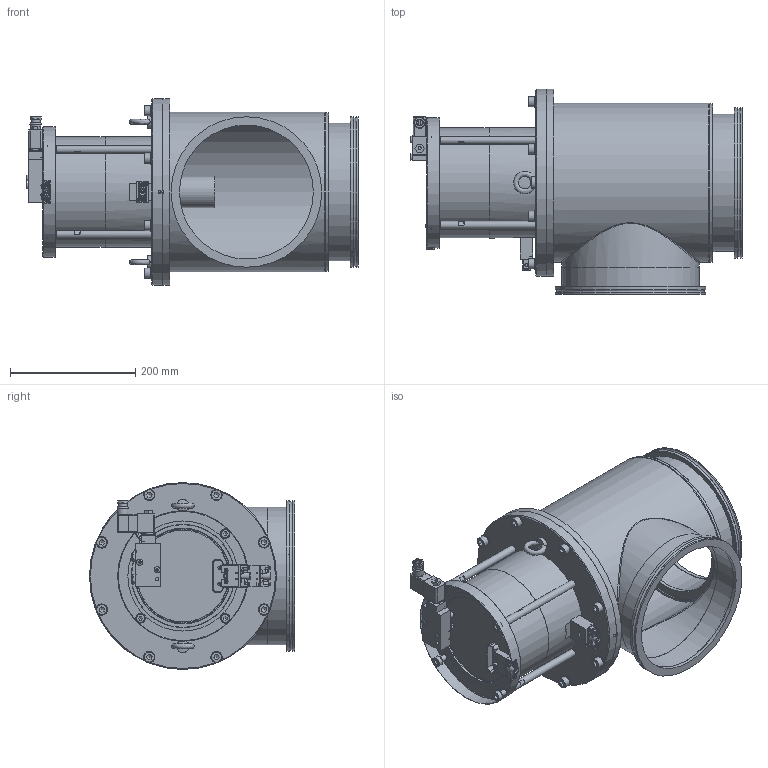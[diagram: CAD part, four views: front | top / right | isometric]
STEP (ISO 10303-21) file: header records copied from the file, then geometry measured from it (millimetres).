
FILE_DESCRIPTION(/* description */ (''),/* implementation_level */ '2;1');
FILE_NAME(/* name */ '1602641972_203.stp',/* time_stamp */ '2019-04-08T07:37:36+02:00',/* author */ (''),/* organization */ (''),/* preprocessor_version */ 'ST-DEVELOPER v16',/* originating_system */ 'SIEMENS PLM Software NX 11.0',/* authorisation */ '');
FILE_SCHEMA (('AP203_CONFIGURATION_CONTROLLED_3D_DESIGN_OF_MECHANICAL_PARTS_AND_ASSEMBLIES_MIM_LF { 1 0 10303 403 2 1 2}'));
Length unit declared in the file: millimetre
Products named in the file (47): 467863; 467864; N-7501-502_1; N-7501-502_2; 524275; 498864; 484239; 498875; 487799; 487825; 366217; N-6024-562; N-7100-016_4; 409474; n-6005-429.1; 244224.1; N-6024-022.1; N-6134-009.1; N-6061-003.2; N-6016-478.2; 80590-01.1; T-9001-055.1; 77379-01.1; 323364.1; 323431.3; N-6195-007.2; 323395.1; 323388.3; N-7100-005_2.1; 323413.3; 714792; n-6134-410; 218204.1; 224833.1; 377229; n-6033-003.1; 411767; 413954; N-8501-300_MODELNX-ARRAGMNTArrangement 1; N-7501-502_NX-ARRAGMNT0Â°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
Assembly tree (81 placements, depth 4):
  791372
    413954
    411767
    323461.4_NX-ARRAGMNTBETAETIGT
      323413.3
      N-7100-005_2.1
      323388.3
      323395.1
      N-6195-007.2
      323431.3
      323364.1
    n-6033-003.1  x2
    377229  x4
    224833.1  x4
    218204.1  x8
    418236
      77379-01.1
      T-9001-055.1
      80590-01.1
      N-6016-478.2  x2
      N-6061-003.2  x2
      N-6134-009.1  x2
      N-6024-022.1  x2
    418235_MODEL
      77379-01.1
      T-9001-055.1
      244224.1  x2
      n-6005-429.1  x2
      409474
    n-6134-410  x8
    487835_MODEL
      487828
        487825
        487799
        498875
        484239
        498864
        524275  x2
    80993-r1_MODELNX-ARRAGMNT0_Grad
      N-7100-016_4  x2
      N-6024-562  x2
      N-7501-502_NX-ARRAGMNT0Â°
        N-7501-502_2
        N-7501-502_1
        N-6024-562  x2
      366217  x2
      N-8501-300_MODELNX-ARRAGMNTArrangement 1
        467864
        467863
    714792
Bounding box: 529.54 x 327 x 298 mm (x, y, z)
Volume: 4112950.9 mm3; surface area: 1266544.6 mm2
Topology: 105 solids, 105 shells, 1680 faces, 3845 edges, 2482 vertices
Faces by surface type: plane 958, cylinder 435, cone 130, bspline 59, torus 48, extrusion 32, sphere 16, revolution 2
Full cylindrical faces by diameter (mm): 1.93 x1, 2.115 x8, 2.36 x2, 2.4 x2, 2.46 x2, 2.475 x3, 2.5 x10, 2.56 x1, 2.575 x1, 2.7 x1, 3 x15, 3.035 x1, 3.2 x2, 3.3 x3, 3.4 x2, 3.5 x8, 4 x2, 4.2 x2, 4.4 x2, 4.7 x2, 4.9 x1, 5 x9, 5.4 x2, 5.5 x9, 5.6 x1, 5.65 x1, 5.7 x1, 5.8 x2, 6 x6, 6.05 x1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
Entity records: 44347 total; most frequent: CARTESIAN_POINT 12040, DIRECTION 4878, ORIENTED_EDGE 4462, EDGE_CURVE 2231, AXIS2_PLACEMENT_3D 1935, EDGE_LOOP 1654, VERTEX_POINT 1628, ADVANCED_FACE 1110
